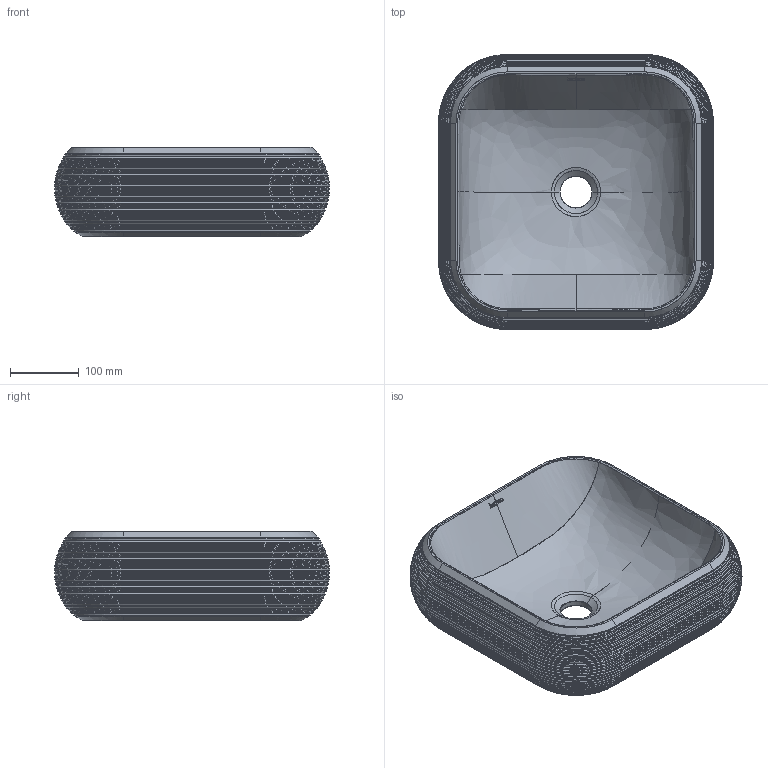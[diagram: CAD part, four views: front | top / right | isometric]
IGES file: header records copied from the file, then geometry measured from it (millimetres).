
Global section: file name: C:\Users\User\Desktop\Modelos 3D\00610_Domed 40\00610_Domed 40.igs; native system: Rhinoceros ( May  7 2021 ); preprocessor: Trout Lake IGES 012 May  7 2021; date: 231115.104629; units: millimetre
Bounding box: 401.14 x 401.14 x 130 mm (x, y, z)
Surface area: 569308.5 mm2 (no closed solid volume)
Topology: 0 solids, 0 shells, 924 faces, 5188 edges, 5183 vertices
Faces by surface type: bspline 924
